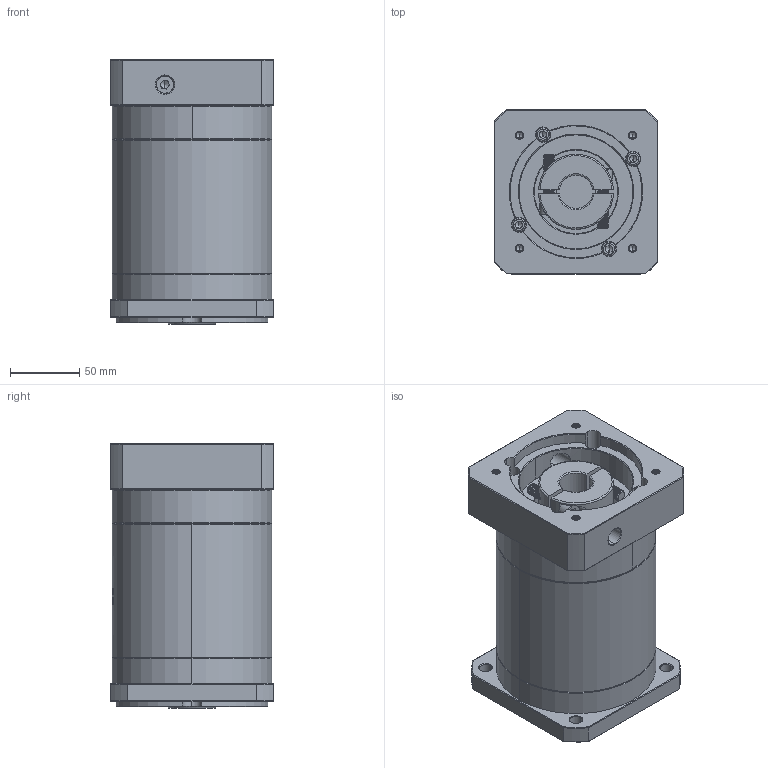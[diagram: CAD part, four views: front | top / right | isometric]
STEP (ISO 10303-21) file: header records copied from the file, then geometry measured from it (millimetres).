
FILE_DESCRIPTION (( 'STEP AP214' ), '1' );
FILE_NAME ('ZF120A-K25-L3-P2-24-95-115-M6.step', '2023-08-27T04:53:54', ( '' ), ( '' ), 'SwSTEP 2.0', 'SolidWorks 2016', '' );
FILE_SCHEMA (( 'AUTOMOTIVE_DESIGN' ));
Length unit declared in the file: millimetre
Products named in the file (1): ZF120A-K25-L3-P2-24-95-115-M6
Bounding box: 118 x 118 x 190.5 mm (x, y, z)
Volume: 1907029.1 mm3; surface area: 176535.5 mm2
Topology: 6 solids, 6 shells, 2181 faces, 5818 edges, 3738 vertices
Faces by surface type: plane 1027, bspline 430, cylinder 388, cone 336
Entity records: 117551 total; most frequent: CARTESIAN_POINT 44404, ORIENTED_EDGE 11580, DIRECTION 8435, EDGE_CURVE 5790, VERTEX_POINT 3738, LINE 3049, VECTOR 3049, AXIS2_PLACEMENT_3D 2693
